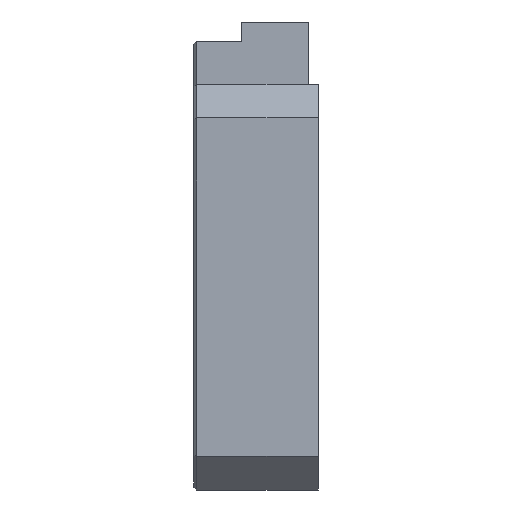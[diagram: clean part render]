
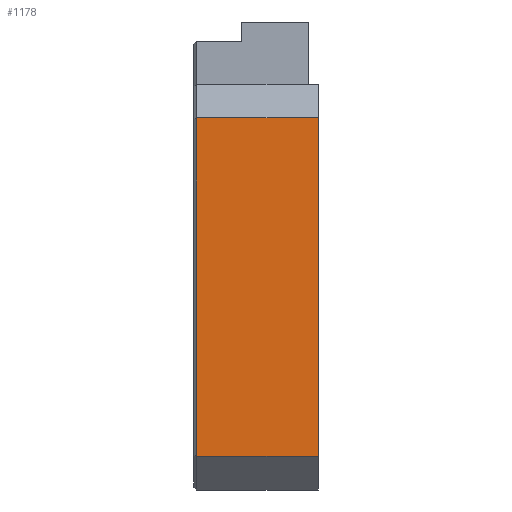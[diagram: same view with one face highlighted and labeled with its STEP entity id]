
A CAD part, left-side view. The second image highlights one B-rep face of the part: STEP entity #1178.
In plain terms, the highlighted planar face has unit normal (-1, 0, 0).
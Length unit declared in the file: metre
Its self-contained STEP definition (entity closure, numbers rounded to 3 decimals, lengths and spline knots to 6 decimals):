
#28=LINE('',#5422,#136);
#36=LINE('',#5438,#144);
#37=LINE('',#5440,#145);
#38=LINE('',#5442,#146);
#136=VECTOR('',#1359,1.);
#144=VECTOR('',#1371,1.);
#145=VECTOR('',#1374,1.);
#146=VECTOR('',#1375,1.);
#266=PLANE('',#1265);
#346=ORIENTED_EDGE('',*,*,#692,.F.);
#347=ORIENTED_EDGE('',*,*,#691,.F.);
#348=ORIENTED_EDGE('',*,*,#683,.F.);
#349=ORIENTED_EDGE('',*,*,#693,.T.);
#683=EDGE_CURVE('',#857,#858,#28,.T.);
#691=EDGE_CURVE('',#858,#863,#36,.T.);
#692=EDGE_CURVE('',#863,#864,#37,.T.);
#693=EDGE_CURVE('',#857,#864,#38,.T.);
#857=VERTEX_POINT('',#5421);
#858=VERTEX_POINT('',#5423);
#863=VERTEX_POINT('',#5437);
#864=VERTEX_POINT('',#5441);
#1004=EDGE_LOOP('',(#346,#347,#348,#349));
#1089=FACE_BOUND('',#1004,.T.);
#1178=ADVANCED_FACE('',(#1089),#266,.T.);
#1265=AXIS2_PLACEMENT_3D('',#5439,#1372,#1373);
#1359=DIRECTION('',(0.,0.,-1.));
#1371=DIRECTION('',(0.,1.,0.));
#1372=DIRECTION('',(-1.,0.,0.));
#1373=DIRECTION('',(0.,0.,1.));
#1374=DIRECTION('',(0.,0.,1.));
#1375=DIRECTION('',(0.,1.,0.));
#5421=CARTESIAN_POINT('',(-0.02115,0.0245,0.01765));
#5422=CARTESIAN_POINT('',(-0.02115,0.0245,0.01765));
#5423=CARTESIAN_POINT('',(-0.02115,0.0245,-0.01765));
#5437=CARTESIAN_POINT('',(-0.02115,0.0372,-0.01765));
#5438=CARTESIAN_POINT('',(-0.02115,0.0245,-0.01765));
#5439=CARTESIAN_POINT('',(-0.02115,0.0245,-0.01765));
#5440=CARTESIAN_POINT('',(-0.02115,0.0372,-0.008825));
#5441=CARTESIAN_POINT('',(-0.02115,0.0372,0.01765));
#5442=CARTESIAN_POINT('',(-0.02115,0.0245,0.01765));
